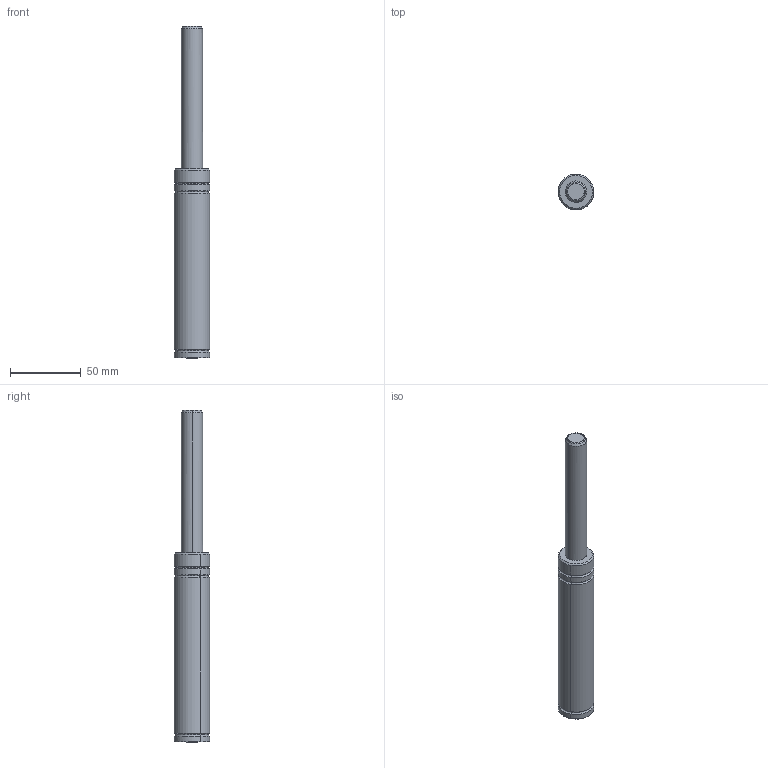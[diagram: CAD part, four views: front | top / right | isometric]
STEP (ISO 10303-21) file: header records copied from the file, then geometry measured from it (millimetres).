
FILE_DESCRIPTION(('CATIA V5 STEP Exchange'),'2;1');
FILE_NAME('W:\CATALOGO GENERAL 2018\FICHEROS CAD\001-MICRO\MICRO 25V\MICRO25Vx100.stp','2021-07-27T06:49:06+00:00',('none'),('none'),'CATIA Version 5 Release 17 (IN-10)','CATIA V5 STEP AP203','none');
FILE_SCHEMA(('CONFIG_CONTROL_DESIGN'));
Length unit declared in the file: millimetre
Products named in the file (1): MICRO25Vx100
Bounding box: 25.19 x 25.19 x 235 mm (x, y, z)
Volume: 84084.5 mm3; surface area: 16938.5 mm2
Topology: 2 solids, 2 shells, 42 faces, 83 edges, 46 vertices
Faces by surface type: torus 18, cylinder 12, cone 7, plane 5
Entity records: 1135 total; most frequent: CARTESIAN_POINT 282, ORIENTED_EDGE 166, DIRECTION 148, AXIS2_PLACEMENT_3D 94, EDGE_CURVE 83, CIRCLE 57, VERTEX_POINT 46, EDGE_LOOP 43
